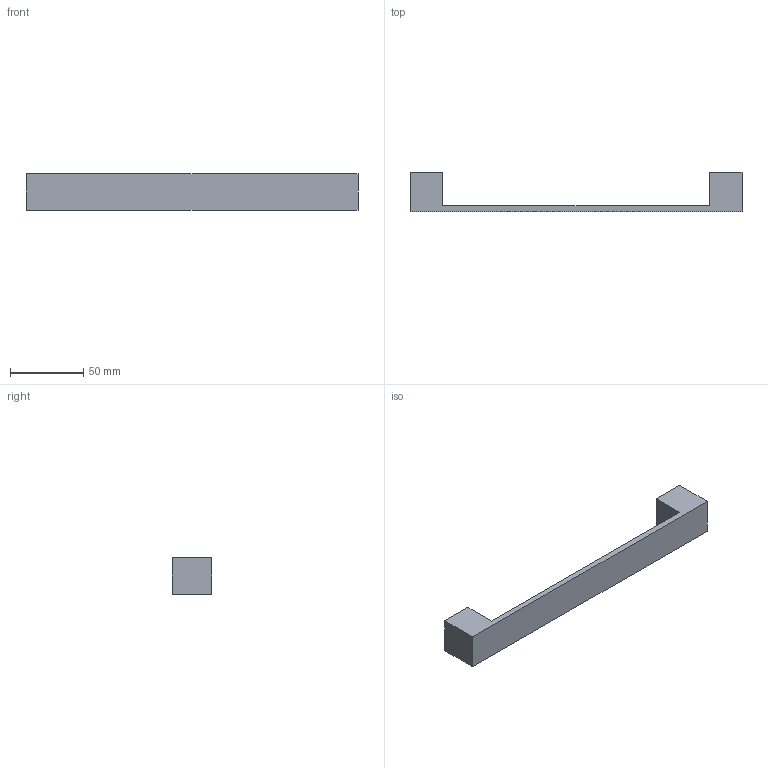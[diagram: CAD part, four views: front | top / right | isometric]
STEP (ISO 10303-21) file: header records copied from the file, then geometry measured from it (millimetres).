
FILE_DESCRIPTION( ( 'STEP AP214' ), '1' );
FILE_NAME( 'D:/Yug/2020/ProDecor_2020/Analysis_ProDecor_2020/QC/9113212.stp', '2020-11-06T06:08:35', ( '' ), ( '' ), ' ', 'PARTsolutions', ' ' );
FILE_SCHEMA( ( 'AUTOMOTIVE_DESIGN { 1 0 10303 214 1 1 1 1 }' ) );
Length unit declared in the file: millimetre
Products named in the file (1): _9113212
Bounding box: 227 x 27 x 25 mm (x, y, z)
Volume: 43438.3 mm3; surface area: 18432 mm2
Topology: 1 solids, 1 shells, 19 faces, 45 edges, 30 vertices
Faces by surface type: plane 13, cylinder 6
Full cylindrical faces by diameter (mm): 4 x2
Entity records: 709 total; most frequent: DIRECTION 95, CARTESIAN_POINT 93, ORIENTED_EDGE 86, EDGE_CURVE 43, AXIS2_PLACEMENT_3D 32, LINE 31, VECTOR 31, VERTEX_POINT 30
